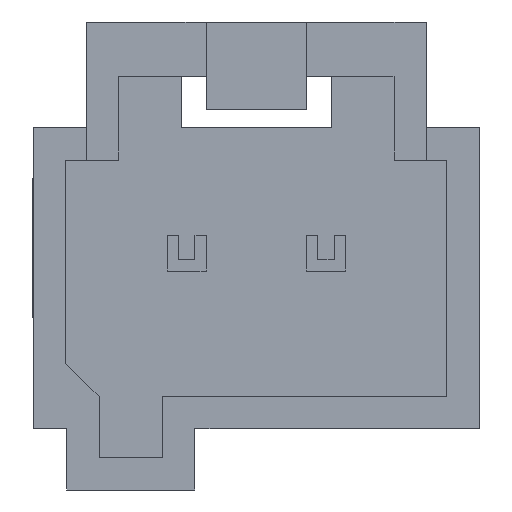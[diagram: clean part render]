
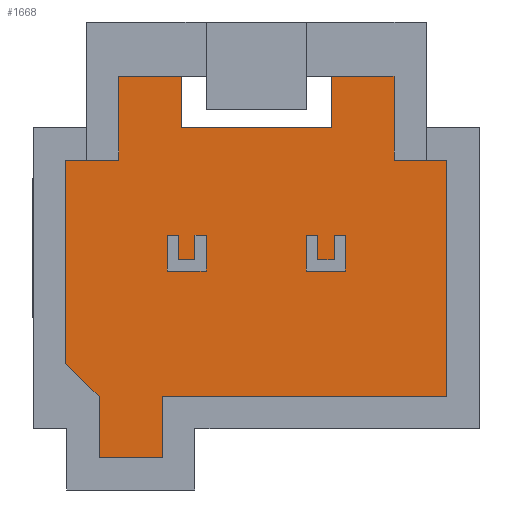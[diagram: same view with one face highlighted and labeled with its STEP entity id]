
A CAD part, front view. The second image highlights one B-rep face of the part: STEP entity #1668.
In plain terms, the highlighted planar face has unit normal (0, -1, 0).
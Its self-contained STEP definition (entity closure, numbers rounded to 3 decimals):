
#1=DIRECTION('',(1.,0.,0.));
#2=VECTOR('',#1,0.2);
#3=CARTESIAN_POINT('',(1.4,0.054,0.372));
#4=LINE('',#3,#2);
#5=DIRECTION('',(0.,0.,1.));
#6=VECTOR('',#5,0.442);
#7=CARTESIAN_POINT('',(1.4,0.054,-0.07));
#8=LINE('',#7,#6);
#9=DIRECTION('',(1.,0.,0.));
#10=VECTOR('',#9,0.3);
#11=CARTESIAN_POINT('',(1.1,0.054,-0.07));
#12=LINE('',#11,#10);
#13=DIRECTION('',(0.,0.,1.));
#14=VECTOR('',#13,0.642);
#15=CARTESIAN_POINT('',(0.9,0.054,-0.27));
#16=LINE('',#15,#14);
#17=DIRECTION('',(0.707,0.,-0.707));
#18=VECTOR('',#17,0.849);
#19=CARTESIAN_POINT('',(-3.422,0.054,-1.922));
#20=LINE('',#19,#18);
#21=DIRECTION('',(1.,0.,0.));
#22=VECTOR('',#21,0.2);
#23=CARTESIAN_POINT('',(-1.1,0.054,0.372));
#24=LINE('',#23,#22);
#25=DIRECTION('',(0.,0.,1.));
#26=VECTOR('',#25,0.442);
#27=CARTESIAN_POINT('',(-1.1,0.054,-0.07));
#28=LINE('',#27,#26);
#29=DIRECTION('',(1.,0.,0.));
#30=VECTOR('',#29,0.3);
#31=CARTESIAN_POINT('',(-1.4,0.054,-0.07));
#32=LINE('',#31,#30);
#33=DIRECTION('',(0.,0.,1.));
#34=VECTOR('',#33,0.642);
#35=CARTESIAN_POINT('',(-1.6,0.054,-0.27));
#36=LINE('',#35,#34);
#45=DIRECTION('',(0.,0.,1.));
#46=VECTOR('',#45,0.642);
#47=CARTESIAN_POINT('',(1.6,0.054,-0.27));
#48=LINE('',#47,#46);
#53=DIRECTION('',(1.,0.,0.));
#54=VECTOR('',#53,0.7);
#55=CARTESIAN_POINT('',(0.9,0.054,-0.27));
#56=LINE('',#55,#54);
#69=DIRECTION('',(-1.,0.,0.));
#70=VECTOR('',#69,0.2);
#71=CARTESIAN_POINT('',(1.1,0.054,0.372));
#72=LINE('',#71,#70);
#77=DIRECTION('',(0.,0.,1.));
#78=VECTOR('',#77,0.442);
#79=CARTESIAN_POINT('',(1.1,0.054,-0.07));
#80=LINE('',#79,#78);
#121=DIRECTION('',(0.,0.,1.));
#122=VECTOR('',#121,1.1);
#123=CARTESIAN_POINT('',(-2.822,0.054,-3.622));
#124=LINE('',#123,#122);
#137=DIRECTION('',(0.,0.,1.));
#138=VECTOR('',#137,3.644);
#139=CARTESIAN_POINT('',(-3.422,0.054,-1.922));
#140=LINE('',#139,#138);
#149=DIRECTION('',(1.,0.,0.));
#150=VECTOR('',#149,0.95);
#151=CARTESIAN_POINT('',(-3.422,0.054,1.722));
#152=LINE('',#151,#150);
#169=DIRECTION('',(0.,0.,1.));
#170=VECTOR('',#169,1.5);
#171=CARTESIAN_POINT('',(-2.472,0.054,1.722));
#172=LINE('',#171,#170);
#185=DIRECTION('',(1.,0.,0.));
#186=VECTOR('',#185,1.122);
#187=CARTESIAN_POINT('',(-2.472,0.054,3.222));
#188=LINE('',#187,#186);
#209=DIRECTION('',(1.,0.,0.));
#210=VECTOR('',#209,1.122);
#211=CARTESIAN_POINT('',(1.35,0.054,3.222));
#212=LINE('',#211,#210);
#213=DIRECTION('',(0.,0.,1.));
#214=VECTOR('',#213,0.922);
#215=CARTESIAN_POINT('',(1.35,0.054,2.3));
#216=LINE('',#215,#214);
#221=DIRECTION('',(1.,0.,0.));
#222=VECTOR('',#221,2.7);
#223=CARTESIAN_POINT('',(-1.35,0.054,2.3));
#224=LINE('',#223,#222);
#253=DIRECTION('',(0.,0.,-1.));
#254=VECTOR('',#253,0.922);
#255=CARTESIAN_POINT('',(-1.35,0.054,3.222));
#256=LINE('',#255,#254);
#333=DIRECTION('',(-1.,0.,0.));
#334=VECTOR('',#333,1.144);
#335=CARTESIAN_POINT('',(-1.678,0.054,-3.622));
#336=LINE('',#335,#334);
#345=DIRECTION('',(0.,0.,-1.));
#346=VECTOR('',#345,1.1);
#347=CARTESIAN_POINT('',(-1.678,0.054,-2.522));
#348=LINE('',#347,#346);
#357=DIRECTION('',(-1.,0.,0.));
#358=VECTOR('',#357,5.1);
#359=CARTESIAN_POINT('',(3.422,0.054,-2.522));
#360=LINE('',#359,#358);
#369=DIRECTION('',(0.,0.,-1.));
#370=VECTOR('',#369,4.244);
#371=CARTESIAN_POINT('',(3.422,0.054,1.722));
#372=LINE('',#371,#370);
#385=DIRECTION('',(1.,0.,0.));
#386=VECTOR('',#385,0.95);
#387=CARTESIAN_POINT('',(2.472,0.054,1.722));
#388=LINE('',#387,#386);
#417=DIRECTION('',(0.,0.,-1.));
#418=VECTOR('',#417,1.5);
#419=CARTESIAN_POINT('',(2.472,0.054,3.222));
#420=LINE('',#419,#418);
#1131=DIRECTION('',(0.,0.,1.));
#1132=VECTOR('',#1131,0.642);
#1133=CARTESIAN_POINT('',(-0.9,0.054,-0.27));
#1134=LINE('',#1133,#1132);
#1139=DIRECTION('',(1.,0.,0.));
#1140=VECTOR('',#1139,0.7);
#1141=CARTESIAN_POINT('',(-1.6,0.054,-0.27));
#1142=LINE('',#1141,#1140);
#1155=DIRECTION('',(-1.,0.,0.));
#1156=VECTOR('',#1155,0.2);
#1157=CARTESIAN_POINT('',(-1.4,0.054,0.372));
#1158=LINE('',#1157,#1156);
#1163=DIRECTION('',(0.,0.,1.));
#1164=VECTOR('',#1163,0.442);
#1165=CARTESIAN_POINT('',(-1.4,0.054,-0.07));
#1166=LINE('',#1165,#1164);
#1203=CARTESIAN_POINT('',(1.4,0.054,0.372));
#1204=CARTESIAN_POINT('',(1.6,0.054,0.372));
#1205=VERTEX_POINT('',#1203);
#1206=VERTEX_POINT('',#1204);
#1207=CARTESIAN_POINT('',(1.6,0.054,-0.27));
#1208=VERTEX_POINT('',#1207);
#1209=CARTESIAN_POINT('',(0.9,0.054,-0.27));
#1210=VERTEX_POINT('',#1209);
#1211=CARTESIAN_POINT('',(0.9,0.054,0.372));
#1212=VERTEX_POINT('',#1211);
#1213=CARTESIAN_POINT('',(1.1,0.054,0.372));
#1214=VERTEX_POINT('',#1213);
#1215=CARTESIAN_POINT('',(1.1,0.054,-0.07));
#1216=VERTEX_POINT('',#1215);
#1217=CARTESIAN_POINT('',(1.4,0.054,-0.07));
#1218=VERTEX_POINT('',#1217);
#1219=CARTESIAN_POINT('',(-2.822,0.054,-3.622));
#1220=CARTESIAN_POINT('',(-2.822,0.054,-2.522));
#1221=VERTEX_POINT('',#1219);
#1222=VERTEX_POINT('',#1220);
#1223=CARTESIAN_POINT('',(-1.678,0.054,-3.622));
#1224=VERTEX_POINT('',#1223);
#1225=CARTESIAN_POINT('',(-1.678,0.054,-2.522));
#1226=VERTEX_POINT('',#1225);
#1227=CARTESIAN_POINT('',(3.422,0.054,-2.522));
#1228=VERTEX_POINT('',#1227);
#1229=CARTESIAN_POINT('',(3.422,0.054,1.722));
#1230=VERTEX_POINT('',#1229);
#1231=CARTESIAN_POINT('',(2.472,0.054,1.722));
#1232=VERTEX_POINT('',#1231);
#1233=CARTESIAN_POINT('',(2.472,0.054,3.222));
#1234=VERTEX_POINT('',#1233);
#1235=CARTESIAN_POINT('',(1.35,0.054,3.222));
#1236=VERTEX_POINT('',#1235);
#1237=CARTESIAN_POINT('',(1.35,0.054,2.3));
#1238=VERTEX_POINT('',#1237);
#1239=CARTESIAN_POINT('',(-1.35,0.054,2.3));
#1240=VERTEX_POINT('',#1239);
#1241=CARTESIAN_POINT('',(-1.35,0.054,3.222));
#1242=VERTEX_POINT('',#1241);
#1243=CARTESIAN_POINT('',(-2.472,0.054,3.222));
#1244=VERTEX_POINT('',#1243);
#1245=CARTESIAN_POINT('',(-2.472,0.054,1.722));
#1246=VERTEX_POINT('',#1245);
#1247=CARTESIAN_POINT('',(-3.422,0.054,1.722));
#1248=VERTEX_POINT('',#1247);
#1249=CARTESIAN_POINT('',(-3.422,0.054,-1.922));
#1250=VERTEX_POINT('',#1249);
#1251=CARTESIAN_POINT('',(-1.1,0.054,0.372));
#1252=CARTESIAN_POINT('',(-0.9,0.054,0.372));
#1253=VERTEX_POINT('',#1251);
#1254=VERTEX_POINT('',#1252);
#1255=CARTESIAN_POINT('',(-0.9,0.054,-0.27));
#1256=VERTEX_POINT('',#1255);
#1257=CARTESIAN_POINT('',(-1.6,0.054,-0.27));
#1258=VERTEX_POINT('',#1257);
#1259=CARTESIAN_POINT('',(-1.6,0.054,0.372));
#1260=VERTEX_POINT('',#1259);
#1261=CARTESIAN_POINT('',(-1.4,0.054,0.372));
#1262=VERTEX_POINT('',#1261);
#1263=CARTESIAN_POINT('',(-1.4,0.054,-0.07));
#1264=VERTEX_POINT('',#1263);
#1265=CARTESIAN_POINT('',(-1.1,0.054,-0.07));
#1266=VERTEX_POINT('',#1265);
#1593=CARTESIAN_POINT('',(0.,0.054,-3.1));
#1594=DIRECTION('',(0.,1.,0.));
#1595=DIRECTION('',(0.,0.,1.));
#1596=AXIS2_PLACEMENT_3D('',#1593,#1594,#1595);
#1597=PLANE('',#1596);
#1599=ORIENTED_EDGE('',*,*,#1598,.T.);
#1601=ORIENTED_EDGE('',*,*,#1600,.F.);
#1603=ORIENTED_EDGE('',*,*,#1602,.T.);
#1605=ORIENTED_EDGE('',*,*,#1604,.T.);
#1607=ORIENTED_EDGE('',*,*,#1606,.T.);
#1609=ORIENTED_EDGE('',*,*,#1608,.T.);
#1611=ORIENTED_EDGE('',*,*,#1610,.T.);
#1613=ORIENTED_EDGE('',*,*,#1612,.T.);
#1615=ORIENTED_EDGE('',*,*,#1614,.T.);
#1617=ORIENTED_EDGE('',*,*,#1616,.T.);
#1619=ORIENTED_EDGE('',*,*,#1618,.T.);
#1621=ORIENTED_EDGE('',*,*,#1620,.T.);
#1623=ORIENTED_EDGE('',*,*,#1622,.T.);
#1625=ORIENTED_EDGE('',*,*,#1624,.T.);
#1627=ORIENTED_EDGE('',*,*,#1626,.T.);
#1629=ORIENTED_EDGE('',*,*,#1628,.T.);
#1630=EDGE_LOOP('',(#1599,#1601,#1603,#1605,#1607,#1609,#1611,#1613,#1615,#1617,
#1619,#1621,#1623,#1625,#1627,#1629));
#1631=FACE_OUTER_BOUND('',#1630,.F.);
#1633=ORIENTED_EDGE('',*,*,#1632,.F.);
#1635=ORIENTED_EDGE('',*,*,#1634,.F.);
#1637=ORIENTED_EDGE('',*,*,#1636,.F.);
#1639=ORIENTED_EDGE('',*,*,#1638,.T.);
#1641=ORIENTED_EDGE('',*,*,#1640,.T.);
#1643=ORIENTED_EDGE('',*,*,#1642,.F.);
#1645=ORIENTED_EDGE('',*,*,#1644,.T.);
#1647=ORIENTED_EDGE('',*,*,#1646,.T.);
#1648=EDGE_LOOP('',(#1633,#1635,#1637,#1639,#1641,#1643,#1645,#1647));
#1649=FACE_BOUND('',#1648,.F.);
#1651=ORIENTED_EDGE('',*,*,#1650,.F.);
#1653=ORIENTED_EDGE('',*,*,#1652,.F.);
#1655=ORIENTED_EDGE('',*,*,#1654,.F.);
#1657=ORIENTED_EDGE('',*,*,#1656,.T.);
#1659=ORIENTED_EDGE('',*,*,#1658,.T.);
#1661=ORIENTED_EDGE('',*,*,#1660,.F.);
#1663=ORIENTED_EDGE('',*,*,#1662,.T.);
#1665=ORIENTED_EDGE('',*,*,#1664,.T.);
#1666=EDGE_LOOP('',(#1651,#1653,#1655,#1657,#1659,#1661,#1663,#1665));
#1667=FACE_BOUND('',#1666,.F.);
#1668=ADVANCED_FACE('',(#1631,#1649,#1667),#1597,.F.);
#1598=EDGE_CURVE('',#1221,#1222,#124,.T.);
#1600=EDGE_CURVE('',#1250,#1222,#20,.T.);
#1602=EDGE_CURVE('',#1250,#1248,#140,.T.);
#1604=EDGE_CURVE('',#1248,#1246,#152,.T.);
#1606=EDGE_CURVE('',#1246,#1244,#172,.T.);
#1608=EDGE_CURVE('',#1244,#1242,#188,.T.);
#1610=EDGE_CURVE('',#1242,#1240,#256,.T.);
#1612=EDGE_CURVE('',#1240,#1238,#224,.T.);
#1614=EDGE_CURVE('',#1238,#1236,#216,.T.);
#1616=EDGE_CURVE('',#1236,#1234,#212,.T.);
#1618=EDGE_CURVE('',#1234,#1232,#420,.T.);
#1620=EDGE_CURVE('',#1232,#1230,#388,.T.);
#1622=EDGE_CURVE('',#1230,#1228,#372,.T.);
#1624=EDGE_CURVE('',#1228,#1226,#360,.T.);
#1626=EDGE_CURVE('',#1226,#1224,#348,.T.);
#1628=EDGE_CURVE('',#1224,#1221,#336,.T.);
#1632=EDGE_CURVE('',#1205,#1206,#4,.T.);
#1634=EDGE_CURVE('',#1218,#1205,#8,.T.);
#1636=EDGE_CURVE('',#1216,#1218,#12,.T.);
#1638=EDGE_CURVE('',#1216,#1214,#80,.T.);
#1640=EDGE_CURVE('',#1214,#1212,#72,.T.);
#1642=EDGE_CURVE('',#1210,#1212,#16,.T.);
#1644=EDGE_CURVE('',#1210,#1208,#56,.T.);
#1646=EDGE_CURVE('',#1208,#1206,#48,.T.);
#1650=EDGE_CURVE('',#1253,#1254,#24,.T.);
#1652=EDGE_CURVE('',#1266,#1253,#28,.T.);
#1654=EDGE_CURVE('',#1264,#1266,#32,.T.);
#1656=EDGE_CURVE('',#1264,#1262,#1166,.T.);
#1658=EDGE_CURVE('',#1262,#1260,#1158,.T.);
#1660=EDGE_CURVE('',#1258,#1260,#36,.T.);
#1662=EDGE_CURVE('',#1258,#1256,#1142,.T.);
#1664=EDGE_CURVE('',#1256,#1254,#1134,.T.);
